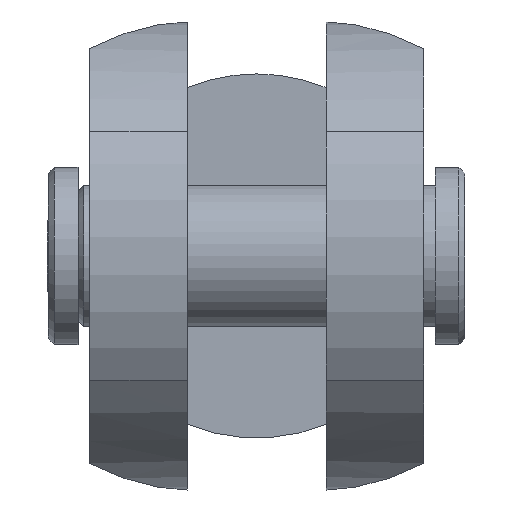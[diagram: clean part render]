
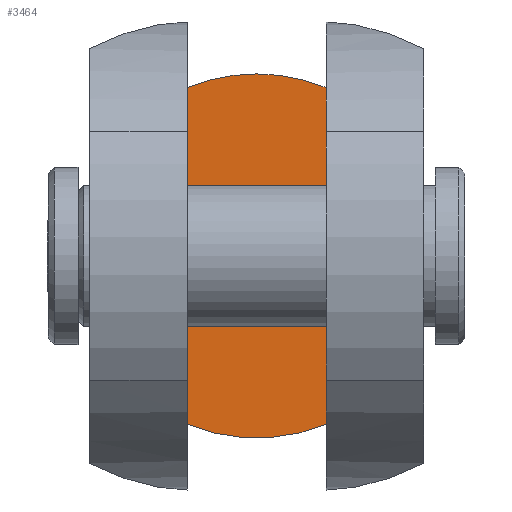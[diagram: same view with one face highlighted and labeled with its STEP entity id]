
A CAD part, left-side view. The second image highlights one B-rep face of the part: STEP entity #3464.
In plain terms, the highlighted planar face has unit normal (-1, 0, 0).
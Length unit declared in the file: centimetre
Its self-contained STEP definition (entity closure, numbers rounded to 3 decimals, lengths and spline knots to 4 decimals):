
#152=PLANE('',#3653);
#504=LINE('',#5639,#858);
#505=LINE('',#5641,#859);
#858=VECTOR('',#4347,5.7004);
#859=VECTOR('',#4350,5.7004);
#1145=FACE_OUTER_BOUND('',#1351,.T.);
#1351=EDGE_LOOP('',(#3019,#3020,#3021,#3022));
#1413=CIRCLE('',#3508,3.0829);
#1414=CIRCLE('',#3509,3.0829);
#1460=VERTEX_POINT('',#4512);
#1461=VERTEX_POINT('',#4516);
#1466=VERTEX_POINT('',#4552);
#1467=VERTEX_POINT('',#4556);
#1770=EDGE_CURVE('',#1460,#1461,#1413,.T.);
#1776=EDGE_CURVE('',#1466,#1467,#1414,.T.);
#2171=EDGE_CURVE('',#1467,#1460,#504,.T.);
#2172=EDGE_CURVE('',#1466,#1461,#505,.T.);
#3019=ORIENTED_EDGE('',*,*,#1776,.F.);
#3020=ORIENTED_EDGE('',*,*,#2172,.T.);
#3021=ORIENTED_EDGE('',*,*,#1770,.F.);
#3022=ORIENTED_EDGE('',*,*,#2171,.F.);
#3464=ADVANCED_FACE('',(#1145),#152,.F.);
#3508=AXIS2_PLACEMENT_3D('',#4517,#3723,#3724);
#3509=AXIS2_PLACEMENT_3D('',#4557,#3725,#3726);
#3653=AXIS2_PLACEMENT_3D('',#5640,#4348,#4349);
#3723=DIRECTION('center_axis',(1.,0.,0.));
#3724=DIRECTION('ref_axis',(0.,0.,
1.));
#3725=DIRECTION('center_axis',(1.,0.,0.));
#3726=DIRECTION('ref_axis',(0.,0.,
1.));
#4347=DIRECTION('',(0.,0.,-1.));
#4348=DIRECTION('center_axis',(1.,0.,0.));
#4349=DIRECTION('ref_axis',(0.,-1.,0.));
#4350=DIRECTION('',(0.,0.,-1.));
#4512=CARTESIAN_POINT('',(5.4,-1.175,-2.8502));
#4516=CARTESIAN_POINT('',(5.4,1.175,-2.8502));
#4517=CARTESIAN_POINT('Origin',(5.4,0.,0.));
#4552=CARTESIAN_POINT('',(5.4,1.175,2.8502));
#4556=CARTESIAN_POINT('',(5.4,-1.175,2.8502));
#4557=CARTESIAN_POINT('Origin',(5.4,0.,0.));
#5639=CARTESIAN_POINT('',(5.4,-1.175,0.));
#5640=CARTESIAN_POINT('Origin',(5.4,1.175,0.));
#5641=CARTESIAN_POINT('',(5.4,1.175,0.));
